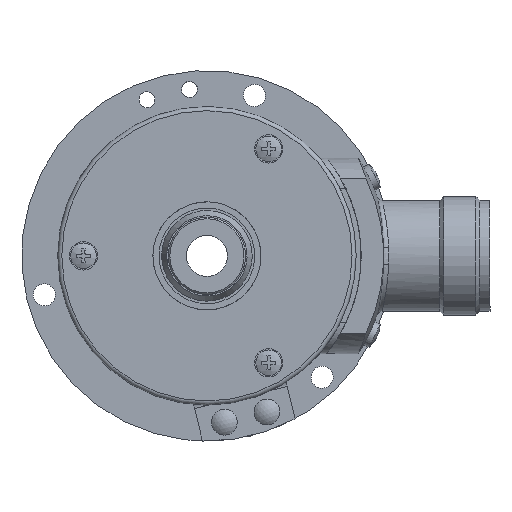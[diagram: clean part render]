
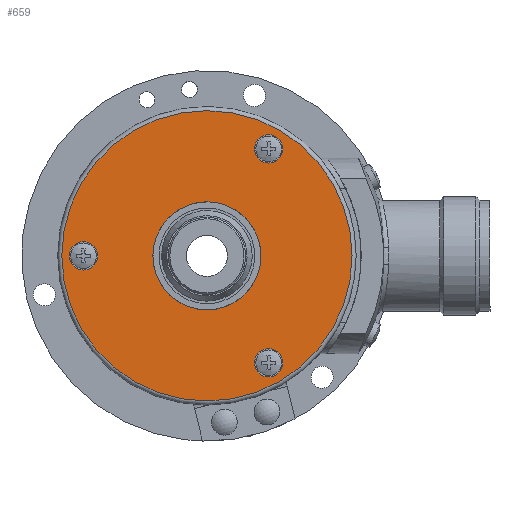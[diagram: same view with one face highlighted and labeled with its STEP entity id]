
A CAD part, left-side view. The second image highlights one B-rep face of the part: STEP entity #659.
In plain terms, the highlighted planar face has unit normal (-1, 0, 0).
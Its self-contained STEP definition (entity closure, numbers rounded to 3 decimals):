
#659 = ADVANCED_FACE ( 'NONE', ( #6326, #6335, #6325, #6331, #6333 ), #8242, .T. ) ;
#1226 = EDGE_LOOP ( 'NONE', ( #5557 ) ) ;
#1227 = EDGE_LOOP ( 'NONE', ( #5556 ) ) ;
#1230 = EDGE_LOOP ( 'NONE', ( #5558 ) ) ;
#1231 = EDGE_LOOP ( 'NONE', ( #5559 ) ) ;
#1232 = EDGE_LOOP ( 'NONE', ( #5560 ) ) ;
#1778 = EDGE_CURVE ( 'NONE', #18415, #18415, #9272, .T. ) ;
#1779 = EDGE_CURVE ( 'NONE', #18416, #18416, #9285, .T. ) ;
#1780 = EDGE_CURVE ( 'NONE', #18417, #18417, #9274, .T. ) ;
#5556 = ORIENTED_EDGE ( 'NONE', *, *, #1778, .T. ) ;
#5557 = ORIENTED_EDGE ( 'NONE', *, *, #18890, .F. ) ;
#5558 = ORIENTED_EDGE ( 'NONE', *, *, #1779, .F. ) ;
#5559 = ORIENTED_EDGE ( 'NONE', *, *, #1780, .F. ) ;
#5560 = ORIENTED_EDGE ( 'NONE', *, *, #11450, .F. ) ;
#6325 = FACE_BOUND ( 'NONE', #1230, .T. ) ;
#6326 = FACE_OUTER_BOUND ( 'NONE', #1227, .T. ) ;
#6331 = FACE_BOUND ( 'NONE', #1231, .T. ) ;
#6333 = FACE_BOUND ( 'NONE', #1232, .T. ) ;
#6335 = FACE_BOUND ( 'NONE', #1226, .T. ) ;
#6822 = AXIS2_PLACEMENT_3D ( 'NONE', #8244, #8241, #8246 ) ;
#7161 = AXIS2_PLACEMENT_3D ( 'NONE', #10993, #10994, #10995 ) ;
#7162 = AXIS2_PLACEMENT_3D ( 'NONE', #10997, #10998, #10999 ) ;
#7163 = AXIS2_PLACEMENT_3D ( 'NONE', #11001, #11002, #11003 ) ;
#8241 = DIRECTION ( 'NONE',  ( -1., 0., 0. ) ) ;
#8242 = PLANE ( 'NONE',  #6822 ) ;
#8244 = CARTESIAN_POINT ( 'NONE',  ( 0., 29., 0. ) ) ;
#8246 = DIRECTION ( 'NONE',  ( 0., 0., -1. ) ) ;
#9272 = CIRCLE ( 'NONE', #7161, 28.2 ) ;
#9274 = CIRCLE ( 'NONE', #7163, 2.75 ) ;
#9285 = CIRCLE ( 'NONE', #7162, 2.75 ) ;
#10993 = CARTESIAN_POINT ( 'NONE',  ( 0., 0., 0. ) ) ;
#10994 = DIRECTION ( 'NONE',  ( -1., 0., 0. ) ) ;
#10995 = DIRECTION ( 'NONE',  ( 0., 0., -1. ) ) ;
#10997 = CARTESIAN_POINT ( 'NONE',  ( 0., -12., 20.785 ) ) ;
#10998 = DIRECTION ( 'NONE',  ( -1., 0., 0. ) ) ;
#10999 = DIRECTION ( 'NONE',  ( 0., 0.866, 0.5 ) ) ;
#11001 = CARTESIAN_POINT ( 'NONE',  ( 0., 24., 0. ) ) ;
#11002 = DIRECTION ( 'NONE',  ( -1., 0., 0. ) ) ;
#11003 = DIRECTION ( 'NONE',  ( 0., 0., -1. ) ) ;
#11450 = EDGE_CURVE ( 'NONE', #18860, #18860, #18385, .T. ) ;
#12177 = AXIS2_PLACEMENT_3D ( 'NONE', #18035, #18036, #18037 ) ;
#12192 = AXIS2_PLACEMENT_3D ( 'NONE', #19032, #19033, #19034 ) ;
#18035 = CARTESIAN_POINT ( 'NONE',  ( 0., 0., 0. ) ) ;
#18036 = DIRECTION ( 'NONE',  ( -1., 0., 0. ) ) ;
#18037 = DIRECTION ( 'NONE',  ( 0., 0., -1. ) ) ;
#18385 = CIRCLE ( 'NONE', #12177, 10.5 ) ;
#18398 = CIRCLE ( 'NONE', #12192, 2.75 ) ;
#18415 = VERTEX_POINT ( 'NONE', #19278 ) ;
#18416 = VERTEX_POINT ( 'NONE', #19279 ) ;
#18417 = VERTEX_POINT ( 'NONE', #19280 ) ;
#18860 = VERTEX_POINT ( 'NONE', #19719 ) ;
#18879 = VERTEX_POINT ( 'NONE', #19737 ) ;
#18890 = EDGE_CURVE ( 'NONE', #18879, #18879, #18398, .T. ) ;
#19032 = CARTESIAN_POINT ( 'NONE',  ( 0., -12., -20.785 ) ) ;
#19033 = DIRECTION ( 'NONE',  ( -1., 0., 0. ) ) ;
#19034 = DIRECTION ( 'NONE',  ( 0., -0.866, 0.5 ) ) ;
#19278 = CARTESIAN_POINT ( 'NONE',  ( 0., 0., -28.2 ) ) ;
#19279 = CARTESIAN_POINT ( 'NONE',  ( 0., -9.618, 22.16 ) ) ;
#19280 = CARTESIAN_POINT ( 'NONE',  ( 0., 24., -2.75 ) ) ;
#19719 = CARTESIAN_POINT ( 'NONE',  ( 0., 0., -10.5 ) ) ;
#19737 = CARTESIAN_POINT ( 'NONE',  ( 0., -14.382, -19.41 ) ) ;
